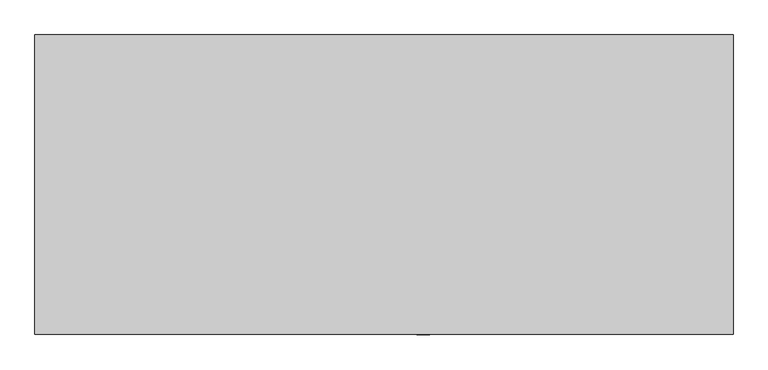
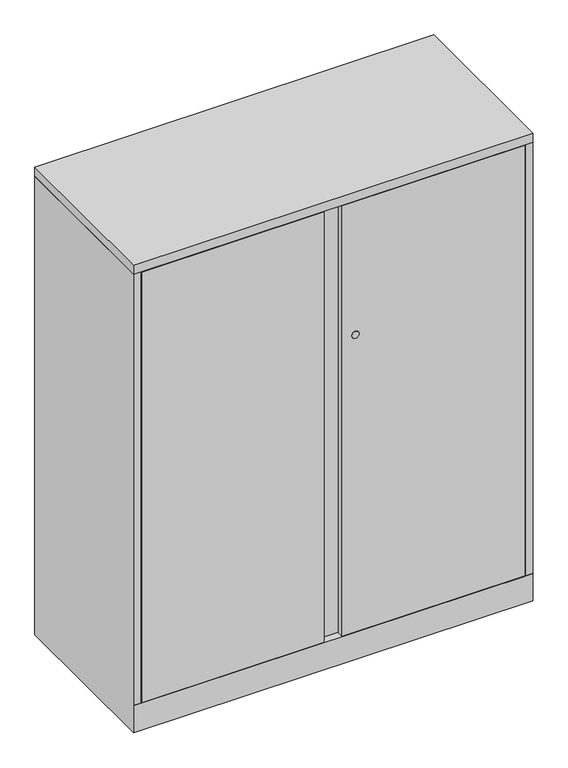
"""IFC4 building model written with IfcOpenShell, lengths in millimetres: furniture geometry, Steelcase - Universal Storage - Cabinet - Storage - 40H-52H - Flush Steel : 52H x 18D x 42W."""

from ifc_helpers import new_model, si_unit, point, frame, frame_2d, origin, place, context, project, spatial, polyline, circle_curve, trimmed, segment, composite_curve, outline, extrude, faceted_brep, source, transform, mapped, element, save


def furniture_1cd6b9e7(model_context):
    return source(origin(), model_context, "Body", "SolidModel", [
        extrude(outline(polyline([(1066.8, 0.0), (1066.8, -457.2), (0.0, -457.2), (0.0, 0.0), (1066.8, 0.0)])), frame((0.0, 0.0, 1295.4), z_axis=(0.0, 0.0, 1.0), x_axis=(1.0, 0.0, 0.0)), (0.0, 0.0, 1.0), 25.4000484),
        extrude(outline(composite_curve([segment(trimmed(circle_curve(frame_2d((917.575, 593.2109835)), 9.7167829), [point((917.575, 602.9277664))], [point((917.575, 583.4942006))], False, "CARTESIAN"), True, "CONTINUOUS"), segment(trimmed(circle_curve(frame_2d((917.575, 593.2109835)), 9.7167829), [point((917.575, 583.4942006))], [point((917.575, 602.9277664))], False, "CARTESIAN"), True, "CONTINUOUS")], self_intersect=False)), frame((0.0, -457.8695275, 0.0), z_axis=(0.0, 1.0, 0.0), x_axis=(0.0, 0.0, 1.0)), (0.0, 0.0, 1.0), 0.6695275),
        extrude(outline(polyline([(20.8280006, -431.673866), (1045.972, -431.673866), (1045.972, -457.2), (557.53, -457.2), (557.53, -438.0238781), (509.27, -438.0238781), (509.27, -457.2), (20.8280006, -457.2), (20.8280006, -431.673866)])), frame((0.0, 0.0, 77.724), z_axis=(0.0, 0.0, 1.0), x_axis=(1.0, 0.0, 0.0)), (0.0, 0.0, 1.0), 1216.406),
        faceted_brep([(1066.8, 0.0, 0.0), (1066.8, -457.2, 0.0), (0.0, -457.2, 0.0), (0.0, 0.0, 0.0), (0.0, 0.0, 1295.4), (1066.8, 0.0, 1295.4), (0.0, -457.2, 76.2), (0.0, -457.2, 77.724), (0.0, -457.2, 1295.4), (1066.8, -457.2, 76.2), (1066.8, -457.2, 1295.4), (1066.8, -457.2, 77.724), (1041.4000242, -25.4000008, 1295.4), (1041.4000242, -430.1498674, 1295.4), (1045.972, -430.1498674, 1295.4), (1045.972, -431.6738781, 1295.4), (1047.496, -431.6738781, 1295.4), (1047.496, -457.2, 1295.4), (19.304, -457.2, 1295.4), (19.304, -431.673866, 1295.4), (20.8280006, -431.673866, 1295.4), (20.8280006, -430.1498674, 1295.4), (25.4000008, -430.1498674, 1295.4), (25.4000008, -25.4000008, 1295.4), (19.304, -457.2, 77.724), (19.304, -437.896, 77.724), (1047.496, -457.2, 77.724), (1047.496, -437.7698418, 77.724), (1041.4000242, -25.4000008, 77.724), (1041.4000242, -430.1498674, 77.724), (1045.972, -430.1498674, 77.724), (1045.972, -431.6738781, 77.724), (1047.496, -431.6738781, 77.724), (19.304, -431.673866, 77.724), (20.8280006, -431.673866, 77.724), (20.8280006, -430.1498674, 77.724), (25.4000008, -430.1498674, 77.724), (25.4000008, -25.4000008, 77.724), (25.526134, -431.673866, 77.724), (1041.4000242, -431.673866, 77.724)], [[[0, 1, 2, 3]], [[0, 3, 4, 5]], [[4, 3, 2, 6, 7, 8]], [[2, 1, 9, 6]], [[1, 0, 5, 10, 11, 9]], [[12, 13, 14, 15, 16, 17, 10, 5, 4, 8, 18, 19, 20, 21, 22, 23]], [[24, 7, 25]], [[11, 26, 27]], [[13, 12, 28, 29]], [[14, 13, 29, 30]], [[15, 14, 30, 31]], [[16, 15, 31, 32]], [[17, 16, 32, 27, 26]], [[10, 17, 26, 11]], [[18, 8, 7, 24]], [[19, 18, 24, 25, 33]], [[20, 19, 33, 34]], [[21, 20, 34, 35]], [[22, 21, 35, 36]], [[23, 22, 36, 37]], [[12, 23, 37, 28]], [[38, 39, 27, 32, 31, 30, 29, 28, 37, 36, 35, 34, 33, 25]], [[7, 6, 38, 25]], [[39, 38, 6, 9]], [[39, 9, 11, 27]]]),
    ])


if __name__ == "__main__":
    model = new_model("IFC4")
    model_context = context("Model", 3, world=origin())
    ifc_project = project(units=[si_unit("LENGTHUNIT", "METRE", prefix="MILLI")], contexts=[model_context])
    site = spatial("IfcSite", under=ifc_project)
    building = spatial("IfcBuilding", under=site)
    placement = place(None, origin())
    furniture_shape = furniture_1cd6b9e7(model_context)
    element("IfcFurniture", 1, ObjectType="Steelcase - Universal Storage - Cabinet - Storage - 40H-52H - Flush Steel : 52H x 18D x 42W", at=placement, inside=building, context=model_context, shape_type="MappedRepresentation", body=[
        mapped(furniture_shape, transform((0.0, 0.0, 0.0), x_axis=(1.0, 0.0, 0.0), y_axis=(0.0, 1.0, 0.0), z_axis=(0.0, 0.0, 1.0))),
    ])
    save(model, "model.ifc")
